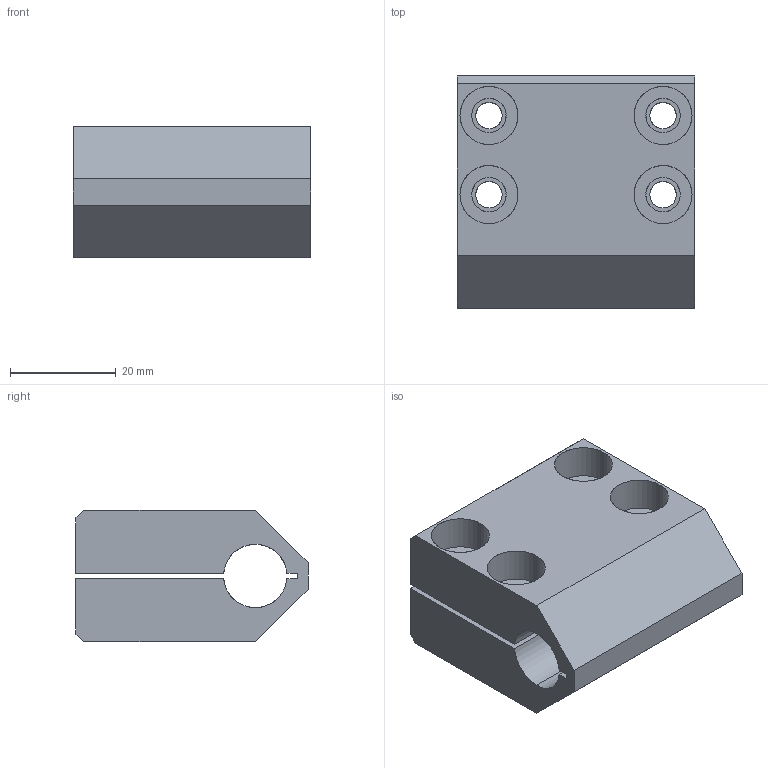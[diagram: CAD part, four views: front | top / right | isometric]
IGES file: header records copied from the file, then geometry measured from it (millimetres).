
Start section: SolidWorks IGES file using analytic representation for surfaces
Global section: file name: C:\Documents and Settings\CAD53\デスクトップ\IGES\N01861-407-1.IGS; native system: SolidWorks 2005 by SolidWorks Corporation; preprocessor: SolidWorks 2005 by SolidWorks Corporation; author: CAD53; date: 070530.103843; units: millimetre
Bounding box: 45 x 44 x 25 mm (x, y, z)
Surface area: 13845.2 mm2 (no closed solid volume)
Topology: 0 solids, 0 shells, 52 faces, 1112 edges, 1112 vertices
Faces by surface type: revolution 30, bspline 22
